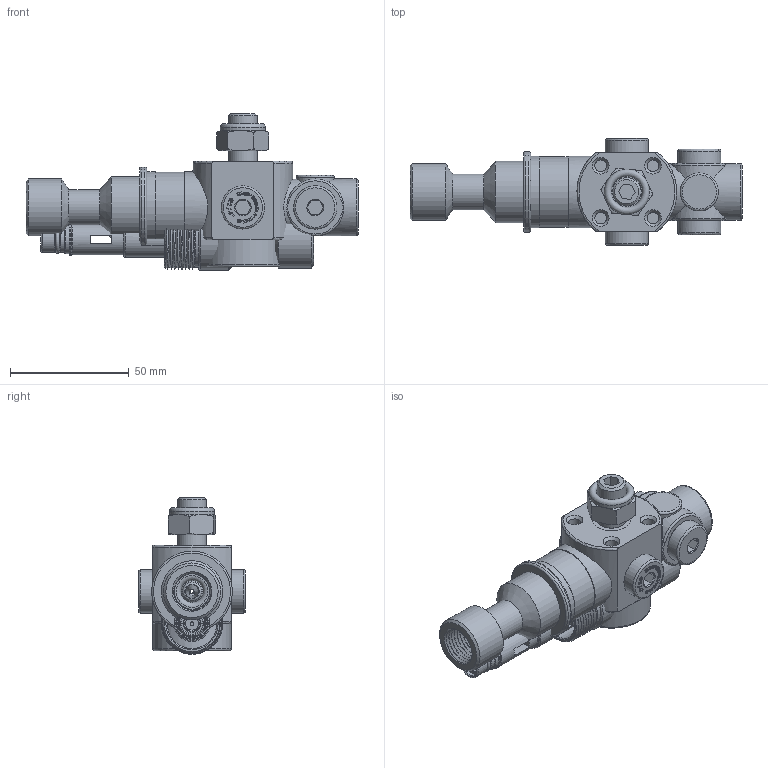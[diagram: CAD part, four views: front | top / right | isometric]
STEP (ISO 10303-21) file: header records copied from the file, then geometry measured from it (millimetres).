
FILE_DESCRIPTION( ( 'Unknown' ), '1' );
FILE_NAME( 'C:/Documents and Settings/Owner/官帕 拳搁/1/VSM 302P-12F-MT12.stp', 'Unknown', ( 'Unknown' ), ( 'Unknown' ), 'PSStep 10.0', 'Unknown', ' ' );
FILE_SCHEMA( ( 'AUTOMOTIVE_DESIGN { 1 0 10303 214 1 1 1 1 }' ) );
Length unit declared in the file: millimetre
Products named in the file (8): Assem1; 302P; speeder moudle_20130528_0; Plug14_New_PPS_0; VC(L)302P_2; Screw nut(M12); Nylon nut(M12); Plug14_New_PPS
Bounding box: 139.8 x 45.4 x 65.95 mm (x, y, z)
Surface area: 122032.2 mm2 (no closed solid volume)
Topology: 0 solids, 1428 shells, 1437 faces, 6119 edges, 5726 vertices
Faces by surface type: plane 783, cylinder 221, torus 140, cone 126, extrusion 81, bspline 72, revolution 14
Full cylindrical faces by diameter (mm): 4.917 x12, 5.5 x3, 7 x3, 7.4 x6, 8 x3, 8.5 x6, 9 x9, 9.3 x6, 10.4 x2, 10.8 x6, 11.445 x18, 11.835 x3, 11.9 x5, 12 x2, 13 x5, 13.1 x3, 13.2 x2, 15 x9, 15.9 x2, 16 x3, 16.5 x9, 17 x3, 18.2 x9, 18.631 x3, 19 x2, 21 x3, 22.835 x3, 23.5 x3, 24 x9, 25.2 x3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
Entity records: 34735 total; most frequent: CARTESIAN_POINT 15951, DIRECTION 2820, ORIENTED_EDGE 1908, EDGE_CURVE 1908, VERTEX_POINT 1908, VECTOR 1085, LINE 1058, AXIS2_PLACEMENT_3D 864
